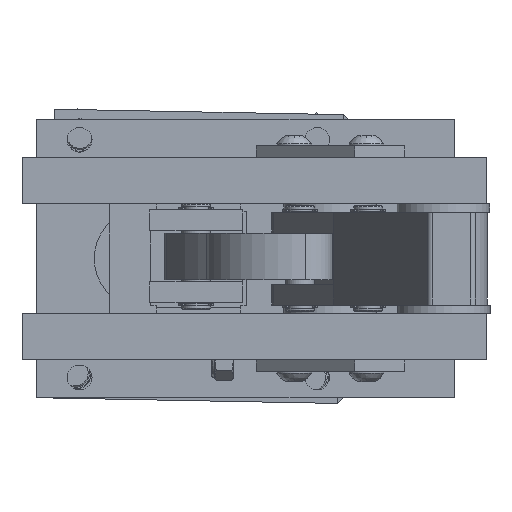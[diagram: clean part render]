
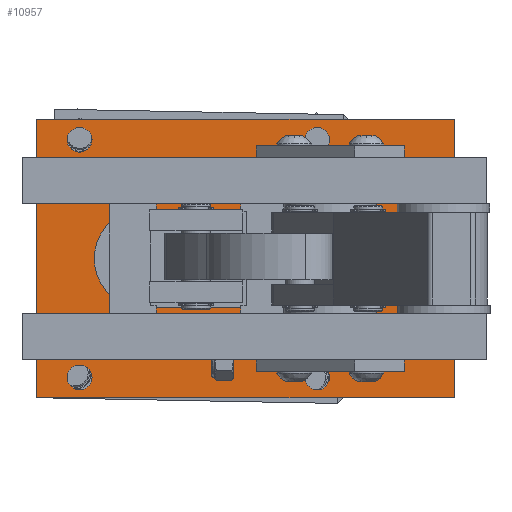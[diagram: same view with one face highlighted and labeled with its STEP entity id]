
A CAD part, left-side view. The second image highlights one B-rep face of the part: STEP entity #10957.
In plain terms, the highlighted planar face has unit normal (-1, 0, 0) as drawn and (0, 0, -1) by its records, which use the part's own axes.
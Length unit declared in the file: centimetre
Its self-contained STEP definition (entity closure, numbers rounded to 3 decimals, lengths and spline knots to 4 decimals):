
#1091=FACE_BOUND($,#3578,.T.);
#1092=FACE_BOUND($,#3579,.T.);
#1093=FACE_BOUND($,#3580,.T.);
#1094=FACE_BOUND($,#3581,.T.);
#1095=FACE_BOUND($,#3582,.T.);
#1096=FACE_BOUND($,#3583,.T.);
#1097=FACE_BOUND($,#3584,.T.);
#1098=FACE_BOUND($,#3585,.T.);
#1099=FACE_BOUND($,#3586,.T.);
#1688=CIRCLE($,#12123,0.3391);
#1690=CIRCLE($,#12126,0.3391);
#1692=CIRCLE($,#12129,0.3391);
#1694=CIRCLE($,#12132,0.3391);
#1699=CIRCLE($,#12140,0.425);
#1703=CIRCLE($,#12147,0.425);
#1707=CIRCLE($,#12154,0.425);
#1711=CIRCLE($,#12161,0.425);
#1712=CIRCLE($,#12163,1.3487);
#1714=CIRCLE($,#12167,1.3487);
#2513=FACE_OUTER_BOUND($,#3577,.T.);
#3577=EDGE_LOOP($,(#8850,#8851,#8852,#8853));
#3578=EDGE_LOOP($,(#8854));
#3579=EDGE_LOOP($,(#8855));
#3580=EDGE_LOOP($,(#8856));
#3581=EDGE_LOOP($,(#8857));
#3582=EDGE_LOOP($,(#8858));
#3583=EDGE_LOOP($,(#8859));
#3584=EDGE_LOOP($,(#8860));
#3585=EDGE_LOOP($,(#8861));
#3586=EDGE_LOOP($,(#8862,#8863,#8864,#8865));
#4436=LINE($,#18645,#4940);
#4440=LINE($,#18656,#4944);
#4444=LINE($,#18665,#4948);
#4448=LINE($,#18672,#4952);
#4451=LINE($,#18678,#4955);
#4453=LINE($,#18681,#4957);
#4940=VECTOR($,#14603,3.);
#4944=VECTOR($,#14615,3.);
#4948=VECTOR($,#14621,7.62);
#4952=VECTOR($,#14627,11.43);
#4955=VECTOR($,#14632,7.62);
#4957=VECTOR($,#14636,11.43);
#5752=VERTEX_POINT($,#18571);
#5754=VERTEX_POINT($,#18576);
#5756=VERTEX_POINT($,#18581);
#5758=VERTEX_POINT($,#18586);
#5763=VERTEX_POINT($,#18599);
#5767=VERTEX_POINT($,#18610);
#5771=VERTEX_POINT($,#18621);
#5775=VERTEX_POINT($,#18632);
#5776=VERTEX_POINT($,#18635);
#5777=VERTEX_POINT($,#18636);
#5780=VERTEX_POINT($,#18644);
#5782=VERTEX_POINT($,#18650);
#5786=VERTEX_POINT($,#18662);
#5787=VERTEX_POINT($,#18664);
#5789=VERTEX_POINT($,#18670);
#5791=VERTEX_POINT($,#18676);
#6885=EDGE_CURVE($,#5752,#5752,#1688,.T.);
#6887=EDGE_CURVE($,#5754,#5754,#1690,.T.);
#6889=EDGE_CURVE($,#5756,#5756,#1692,.T.);
#6891=EDGE_CURVE($,#5758,#5758,#1694,.T.);
#6896=EDGE_CURVE($,#5763,#5763,#1699,.T.);
#6900=EDGE_CURVE($,#5767,#5767,#1703,.T.);
#6904=EDGE_CURVE($,#5771,#5771,#1707,.T.);
#6908=EDGE_CURVE($,#5775,#5775,#1711,.T.);
#6909=EDGE_CURVE($,#5776,#5777,#1712,.T.);
#6913=EDGE_CURVE($,#5777,#5780,#4436,.T.);
#6916=EDGE_CURVE($,#5780,#5782,#1714,.T.);
#6919=EDGE_CURVE($,#5782,#5776,#4440,.T.);
#6923=EDGE_CURVE($,#5787,#5786,#4444,.T.);
#6927=EDGE_CURVE($,#5786,#5789,#4448,.T.);
#6930=EDGE_CURVE($,#5789,#5791,#4451,.T.);
#6932=EDGE_CURVE($,#5791,#5787,#4453,.T.);
#8850=ORIENTED_EDGE($,*,*,#6932,.T.);
#8851=ORIENTED_EDGE($,*,*,#6923,.T.);
#8852=ORIENTED_EDGE($,*,*,#6927,.T.);
#8853=ORIENTED_EDGE($,*,*,#6930,.T.);
#8854=ORIENTED_EDGE($,*,*,#6885,.T.);
#8855=ORIENTED_EDGE($,*,*,#6887,.T.);
#8856=ORIENTED_EDGE($,*,*,#6889,.T.);
#8857=ORIENTED_EDGE($,*,*,#6891,.T.);
#8858=ORIENTED_EDGE($,*,*,#6896,.T.);
#8859=ORIENTED_EDGE($,*,*,#6900,.T.);
#8860=ORIENTED_EDGE($,*,*,#6904,.T.);
#8861=ORIENTED_EDGE($,*,*,#6908,.T.);
#8862=ORIENTED_EDGE($,*,*,#6916,.T.);
#8863=ORIENTED_EDGE($,*,*,#6919,.T.);
#8864=ORIENTED_EDGE($,*,*,#6909,.T.);
#8865=ORIENTED_EDGE($,*,*,#6913,.T.);
#10379=PLANE($,#12175);
#10957=ADVANCED_FACE($,(#2513,#1091,#1092,#1093,#1094,#1095,#1096,#1097,
#1098,#1099),#10379,.F.);
#12123=AXIS2_PLACEMENT_3D($,#18572,#14515,#14516);
#12126=AXIS2_PLACEMENT_3D($,#18577,#14521,#14522);
#12129=AXIS2_PLACEMENT_3D($,#18582,#14527,#14528);
#12132=AXIS2_PLACEMENT_3D($,#18587,#14533,#14534);
#12140=AXIS2_PLACEMENT_3D($,#18600,#14549,#14550);
#12147=AXIS2_PLACEMENT_3D($,#18611,#14563,#14564);
#12154=AXIS2_PLACEMENT_3D($,#18622,#14577,#14578);
#12161=AXIS2_PLACEMENT_3D($,#18633,#14591,#14592);
#12163=AXIS2_PLACEMENT_3D($,#18637,#14595,#14596);
#12167=AXIS2_PLACEMENT_3D($,#18651,#14608,#14609);
#12175=AXIS2_PLACEMENT_3D($,#18683,#14639,#14640);
#14515=DIRECTION('center_axis',(0.,0.,1.));
#14516=DIRECTION('ref_axis',(1.,0.,0.));
#14521=DIRECTION('center_axis',(0.,0.,1.));
#14522=DIRECTION('ref_axis',(1.,0.,0.));
#14527=DIRECTION('center_axis',(0.,0.,1.));
#14528=DIRECTION('ref_axis',(1.,0.,0.));
#14533=DIRECTION('center_axis',(0.,0.,1.));
#14534=DIRECTION('ref_axis',(1.,0.,0.));
#14549=DIRECTION('center_axis',(0.,0.,1.));
#14550=DIRECTION('ref_axis',(1.,0.,0.));
#14563=DIRECTION('center_axis',(0.,0.,1.));
#14564=DIRECTION('ref_axis',(1.,0.,0.));
#14577=DIRECTION('center_axis',(0.,0.,1.));
#14578=DIRECTION('ref_axis',(1.,0.,0.));
#14591=DIRECTION('center_axis',(0.,0.,1.));
#14592=DIRECTION('ref_axis',(1.,0.,0.));
#14595=DIRECTION('center_axis',(0.,0.,1.));
#14596=DIRECTION('ref_axis',(0.,1.,0.));
#14603=DIRECTION($,(-1.,0.,0.));
#14608=DIRECTION('center_axis',(0.,0.,1.));
#14609=DIRECTION('ref_axis',(0.,-1.,0.));
#14615=DIRECTION($,(1.,0.,0.));
#14621=DIRECTION($,(0.,-1.,0.));
#14627=DIRECTION($,(-1.,0.,0.));
#14632=DIRECTION($,(0.,1.,0.));
#14636=DIRECTION($,(1.,0.,0.));
#14639=DIRECTION('center_axis',(0.,0.,1.));
#14640=DIRECTION('ref_axis',(1.,0.,0.));
#18571=CARTESIAN_POINT('',(4.9702,-5.5191,0.));
#18572=CARTESIAN_POINT('Origin',(5.3093,-5.5191,0.));
#18576=CARTESIAN_POINT('',(4.9702,0.9809,0.));
#18577=CARTESIAN_POINT('Origin',(5.3093,0.9809,0.));
#18581=CARTESIAN_POINT('',(-1.5298,-5.5191,0.));
#18582=CARTESIAN_POINT('Origin',(-1.1907,-5.5191,0.));
#18586=CARTESIAN_POINT('',(-1.5298,0.9809,0.));
#18587=CARTESIAN_POINT('Origin',(-1.1907,0.9809,0.));
#18599=CARTESIAN_POINT('',(7.6343,-4.4016,0.));
#18600=CARTESIAN_POINT('Origin',(8.0593,-4.4016,0.));
#18610=CARTESIAN_POINT('',(1.6343,-4.4016,0.));
#18611=CARTESIAN_POINT('Origin',(2.0593,-4.4016,0.));
#18621=CARTESIAN_POINT('',(7.6343,-0.1366,0.));
#18622=CARTESIAN_POINT('Origin',(8.0593,-0.1366,0.));
#18632=CARTESIAN_POINT('',(1.6343,-0.1366,0.));
#18633=CARTESIAN_POINT('Origin',(2.0593,-0.1366,0.));
#18635=CARTESIAN_POINT('',(3.5593,-3.6178,0.));
#18636=CARTESIAN_POINT('',(3.5593,-0.9203,0.));
#18637=CARTESIAN_POINT('Origin',(3.5593,-2.2691,0.));
#18644=CARTESIAN_POINT('',(0.5593,-0.9203,0.));
#18645=CARTESIAN_POINT($,(3.4518,-0.9203,0.));
#18650=CARTESIAN_POINT('',(0.5593,-3.6178,0.));
#18651=CARTESIAN_POINT('Origin',(0.5593,-2.2691,0.));
#18656=CARTESIAN_POINT($,(1.9518,-3.6178,0.));
#18662=CARTESIAN_POINT('',(9.0593,-6.0791,0.));
#18664=CARTESIAN_POINT('',(9.0593,1.5409,0.));
#18665=CARTESIAN_POINT($,(9.0593,1.5409,0.));
#18670=CARTESIAN_POINT('',(-2.3707,-6.0791,0.));
#18672=CARTESIAN_POINT($,(9.0593,-6.0791,0.));
#18676=CARTESIAN_POINT('',(-2.3707,1.5409,0.));
#18678=CARTESIAN_POINT($,(-2.3707,-6.0791,0.));
#18681=CARTESIAN_POINT($,(-2.3707,1.5409,0.));
#18683=CARTESIAN_POINT('Origin',(3.3443,-2.2691,0.));
